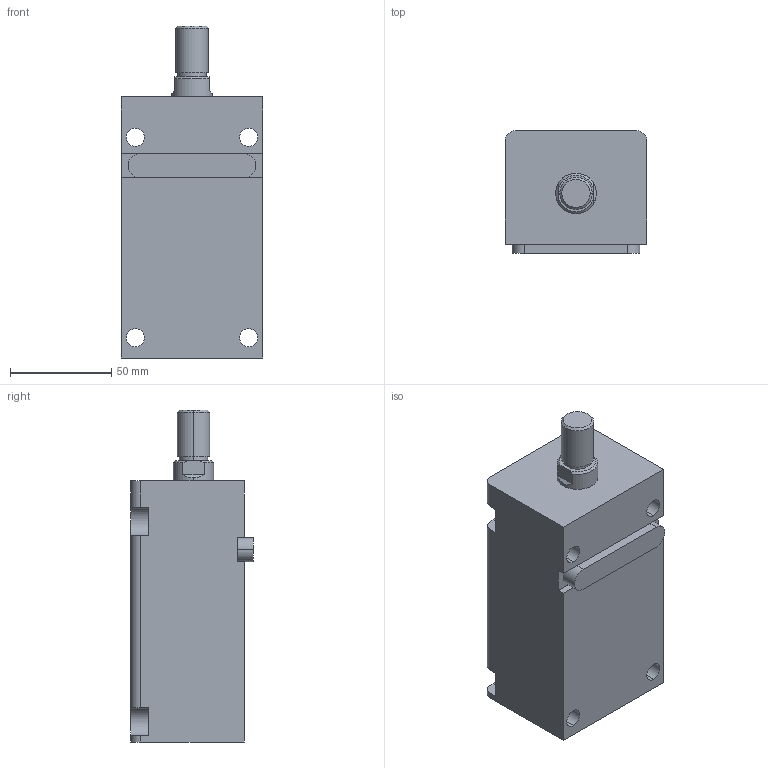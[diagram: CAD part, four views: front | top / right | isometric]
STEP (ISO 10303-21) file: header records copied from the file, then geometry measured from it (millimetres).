
FILE_DESCRIPTION (( 'STEP AP203' ), '1' );
FILE_NAME ('HTB-LA32-75W.STEP', '2019-10-09T06:30:56', ( '微软用户' ), ( '微软中国' ), 'SwSTEP 2.0', 'SolidWorks 2012', '' );
FILE_SCHEMA (( 'CONFIG_CONTROL_DESIGN' ));
Length unit declared in the file: millimetre
Products named in the file (4): HTB-LA32-75掛极; HTB-LA32-75W活塞杆; HTB-LA32-瑩; HTB-LA32-75W
Assembly tree (3 placements, depth 2):
  HTB-LA32-75W
    HTB-LA32-75掛极
    HTB-LA32-75W活塞杆
    HTB-LA32-瑩
Bounding box: 70 x 60.5 x 164 mm (x, y, z)
Volume: 458300.4 mm3; surface area: 72644.2 mm2
Topology: 3 solids, 3 shells, 92 faces, 223 edges, 146 vertices
Faces by surface type: plane 41, cylinder 37, cone 8, torus 6
Entity records: 3159 total; most frequent: DIRECTION 509, CARTESIAN_POINT 495, ORIENTED_EDGE 446, EDGE_CURVE 223, AXIS2_PLACEMENT_3D 196, VERTEX_POINT 146, VECTOR 117, LINE 117
